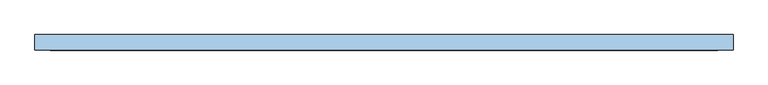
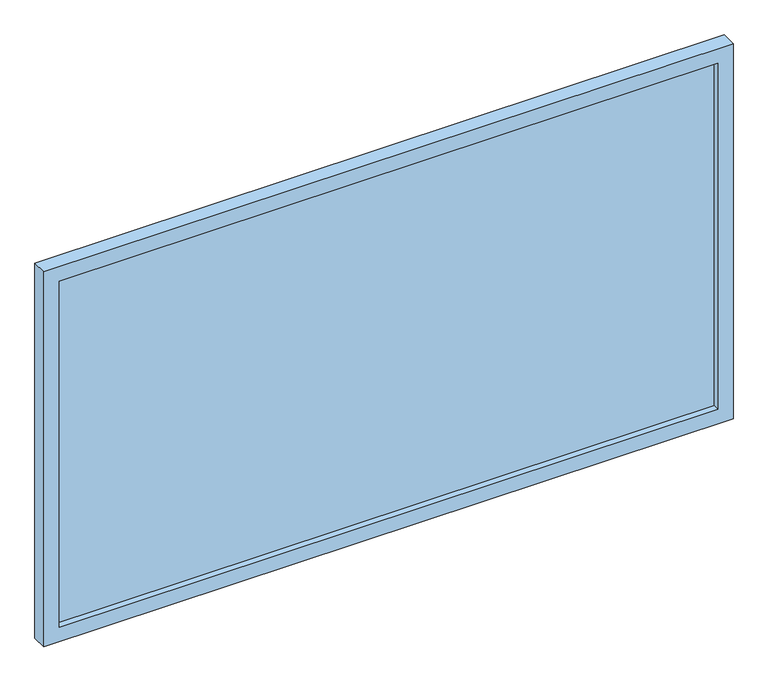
"""IFC4 building model written with IfcOpenShell, lengths in millimetres: window geometry, 固定窗-矩形- (1) : 269.5 * 155 cm."""

from ifc_helpers import new_model, si_unit, frame, origin, place, context, project, spatial, polyline, outline, extrude, source, transform, mapped, element, save


def window_ba6ed91b(model_context):
    return source(origin(), model_context, "Body", "SweptSolid", [
        extrude(outline(polyline([(2550.0, 1347.5), (2550.0, -1347.5), (1000.0, -1347.5), (1000.0, 1347.5), (2550.0, 1347.5)]), holes=[polyline([(2490.0, 1287.5), (1060.0, 1287.5), (1060.0, -1287.5), (2490.0, -1287.5), (2490.0, 1287.5)])]), frame((0.0, -60.0, 0.0), z_axis=(0.0, 1.0, 0.0), x_axis=(0.0, 0.0, 1.0)), (0.0, 0.0, 1.0), 60.0),
        extrude(outline(polyline([(-1287.5, -25.0), (1287.5, -25.0), (1287.5, -35.0), (-1287.5, -35.0), (-1287.5, -25.0)])), frame((0.0, 0.0, 1060.0), z_axis=(0.0, 0.0, 1.0), x_axis=(1.0, 0.0, 0.0)), (0.0, 0.0, 1.0), 1430.0),
    ])


if __name__ == "__main__":
    model = new_model("IFC4")
    model_context = context("Model", 3, world=origin())
    ifc_project = project(units=[si_unit("LENGTHUNIT", "METRE", prefix="MILLI")], contexts=[model_context])
    site = spatial("IfcSite", under=ifc_project)
    building = spatial("IfcBuilding", under=site)
    placement = place(None, origin())
    window_shape = window_ba6ed91b(model_context)
    element("IfcWindow", 1, ObjectType="固定窗-矩形- (1) : 269.5 * 155 cm", at=placement, inside=building, context=model_context, shape_type="MappedRepresentation", body=[
        mapped(window_shape, transform((0.0, 0.0, 0.0), x_axis=(1.0, 0.0, 0.0), y_axis=(0.0, 1.0, 0.0), z_axis=(0.0, 0.0, 1.0))),
    ])
    save(model, "model.ifc")
